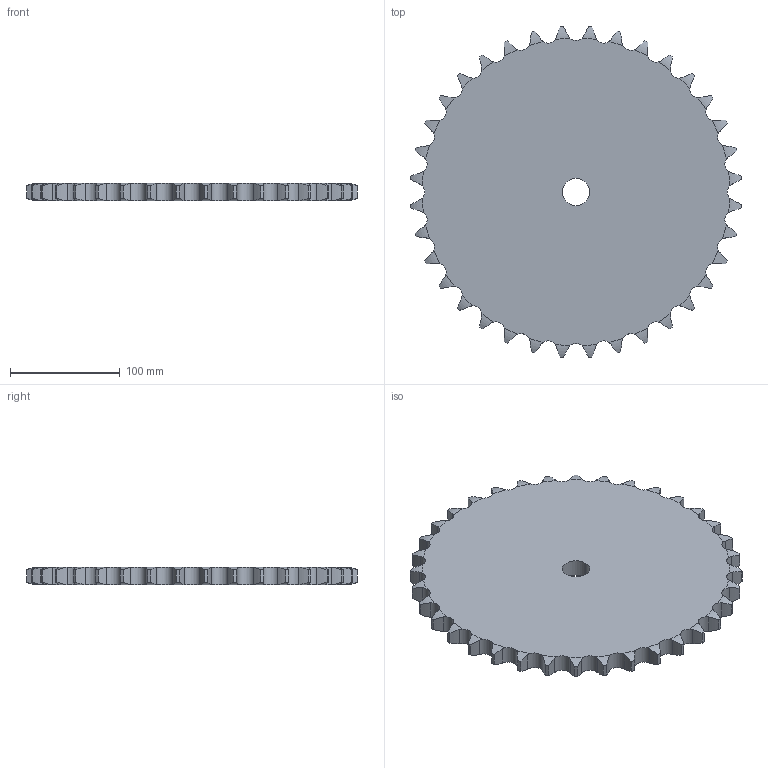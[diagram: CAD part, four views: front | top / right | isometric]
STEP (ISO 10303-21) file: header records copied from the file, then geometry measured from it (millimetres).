
FILE_DESCRIPTION((''),'2;1');
FILE_NAME('500-501-0036_PRT','2021-02-12T',('Brieden'),('Brieden'),'PRO/ENGINEER BY PARAMETRIC TECHNOLOGY CORPORATION, 2010160','PRO/ENGINEER BY PARAMETRIC TECHNOLOGY CORPORATION, 2010160','');
FILE_SCHEMA(('AUTOMOTIVE_DESIGN { 1 0 10303 214 1 1 1 1 }'));
Length unit declared in the file: millimetre
Products named in the file (1): 500-501-0036_PRT
Bounding box: 301.16 x 301.16 x 16.2 mm (x, y, z)
Volume: 1026516.2 mm3; surface area: 149816.8 mm2
Topology: 1 solids, 1 shells, 220 faces, 654 edges, 436 vertices
Faces by surface type: cylinder 146, torus 72, plane 2
Entity records: 11400 total; most frequent: CARTESIAN_POINT 3815, ORIENTED_EDGE 1308, DIRECTION 1026, PRESENTATION_STYLE_ASSIGNMENT 655, STYLED_ITEM 655, CURVE_STYLE 654, EDGE_CURVE 654, AXIS2_PLACEMENT_3D 440
